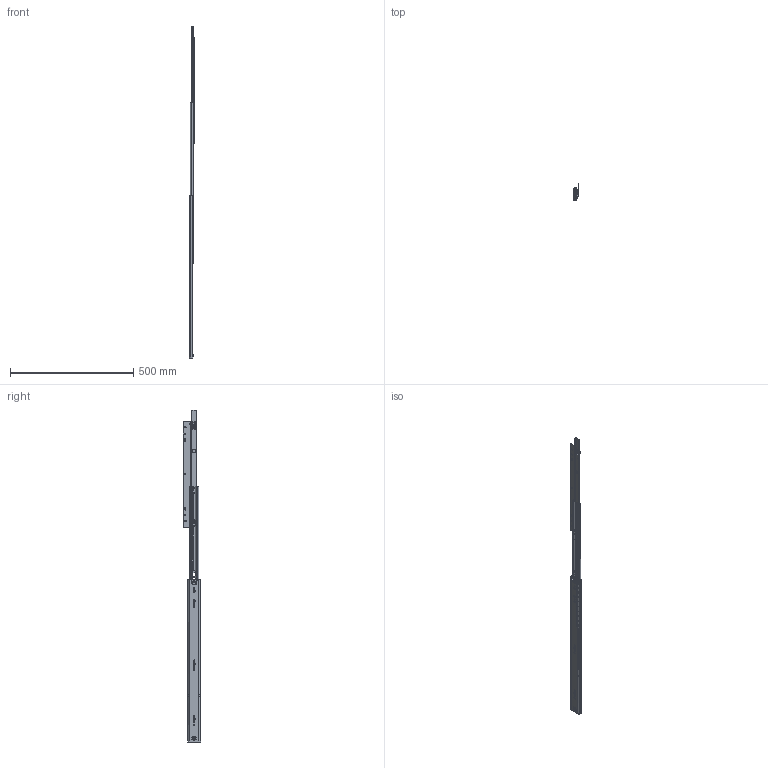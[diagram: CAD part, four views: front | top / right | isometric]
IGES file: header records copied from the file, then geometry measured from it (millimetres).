
Global section: file name: No Iges File Name specified; native system: Autodesk Inventor 2012; preprocessor: AutoDesk Inventor Iges Exporter R2012; author: HV83751; date: 20130708.085315; units: inch
Bounding box: 22.61 x 70.18 x 1346.66 mm (x, y, z)
Surface area: 318295.9 mm2
Topology: 6 solids, 35 shells, 1704 faces, 5034 edges, 3249 vertices
Faces by surface type: plane 845, revolution 443, cylinder 357, bspline 50, torus 9
